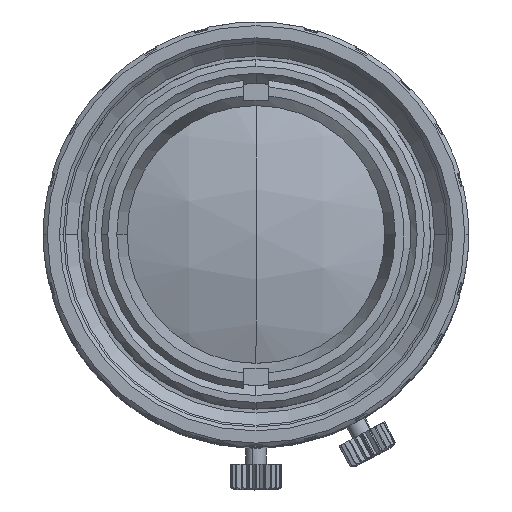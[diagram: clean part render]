
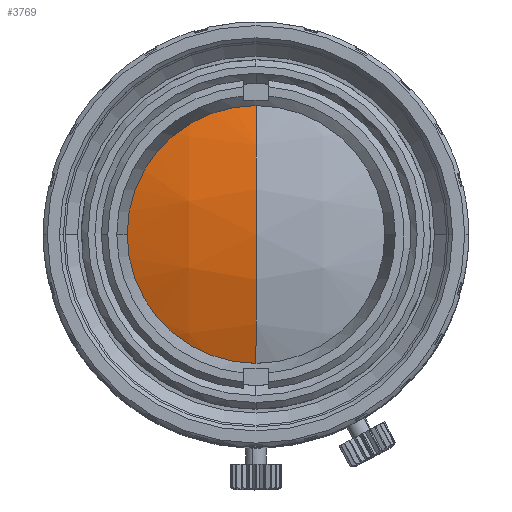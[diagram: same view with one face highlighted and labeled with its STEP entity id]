
A CAD part, top view. The second image highlights one B-rep face of the part: STEP entity #3769.
In plain terms, the highlighted spherical face has radius 28.347 mm.
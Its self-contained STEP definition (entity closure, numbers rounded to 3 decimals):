
#515 = AXIS2_PLACEMENT_3D ( 'NONE', #7015, #15850, #8300 ) ;
#1037 = CARTESIAN_POINT ( 'NONE',  ( 0., -10.292, 77.647 ) ) ;
#2256 = AXIS2_PLACEMENT_3D ( 'NONE', #10063, #2443, #11342 ) ;
#2443 = DIRECTION ( 'NONE',  ( 1., 0., 0. ) ) ;
#2481 = AXIS2_PLACEMENT_3D ( 'NONE', #12760, #5179, #14023 ) ;
#3069 = FACE_OUTER_BOUND ( 'NONE', #9112, .T. ) ;
#3769 = ADVANCED_FACE ( 'NONE', ( #3069 ), #12406, .T. ) ;
#4469 = DIRECTION ( 'NONE',  ( -1., 0., 0. ) ) ;
#5179 = DIRECTION ( 'NONE',  ( 0., 0., 1. ) ) ;
#7015 = CARTESIAN_POINT ( 'NONE',  ( 0., 0., 51.235 ) ) ;
#7026 = CARTESIAN_POINT ( 'NONE',  ( 0., 0., 51.235 ) ) ;
#7846 = EDGE_CURVE ( 'NONE', #11966, #8147, #8325, .T. ) ;
#8130 = CARTESIAN_POINT ( 'NONE',  ( 0., 0., 79.582 ) ) ;
#8147 = VERTEX_POINT ( 'NONE', #8130 ) ;
#8300 = DIRECTION ( 'NONE',  ( 0., -1., 0. ) ) ;
#8325 = CIRCLE ( 'NONE', #2256, 28.347 ) ;
#8430 = EDGE_CURVE ( 'NONE', #11966, #10349, #12862, .T. ) ;
#8780 = CARTESIAN_POINT ( 'NONE',  ( 0., 10.292, 77.647 ) ) ;
#9112 = EDGE_LOOP ( 'NONE', ( #13305, #11197, #16076 ) ) ;
#10063 = CARTESIAN_POINT ( 'NONE',  ( 0., 0., 51.235 ) ) ;
#10349 = VERTEX_POINT ( 'NONE', #1037 ) ;
#11197 = ORIENTED_EDGE ( 'NONE', *, *, #12984, .T. ) ;
#11342 = DIRECTION ( 'NONE',  ( 0., 0., -1. ) ) ;
#11966 = VERTEX_POINT ( 'NONE', #8780 ) ;
#12334 = CIRCLE ( 'NONE', #515, 28.347 ) ;
#12406 = SPHERICAL_SURFACE ( 'NONE', #16110, 28.347 ) ;
#12760 = CARTESIAN_POINT ( 'NONE',  ( 0., 0., 77.647 ) ) ;
#12862 = CIRCLE ( 'NONE', #2481, 10.292 ) ;
#12984 = EDGE_CURVE ( 'NONE', #10349, #8147, #12334, .T. ) ;
#13305 = ORIENTED_EDGE ( 'NONE', *, *, #8430, .T. ) ;
#14023 = DIRECTION ( 'NONE',  ( -1., 0., 0. ) ) ;
#15850 = DIRECTION ( 'NONE',  ( -1., 0., 0. ) ) ;
#15864 = DIRECTION ( 'NONE',  ( 0., 1., 0. ) ) ;
#16076 = ORIENTED_EDGE ( 'NONE', *, *, #7846, .F. ) ;
#16110 = AXIS2_PLACEMENT_3D ( 'NONE', #7026, #4469, #15864 ) ;
